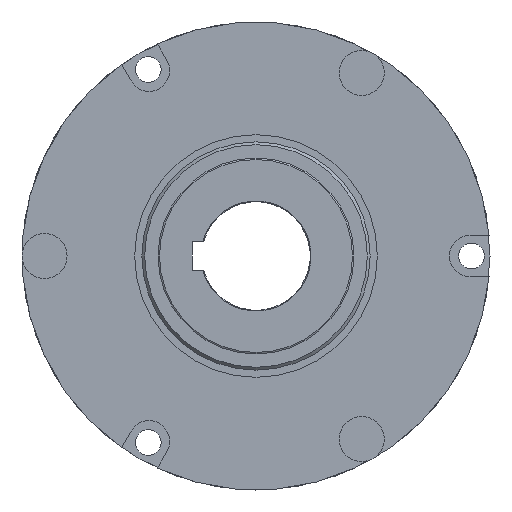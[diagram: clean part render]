
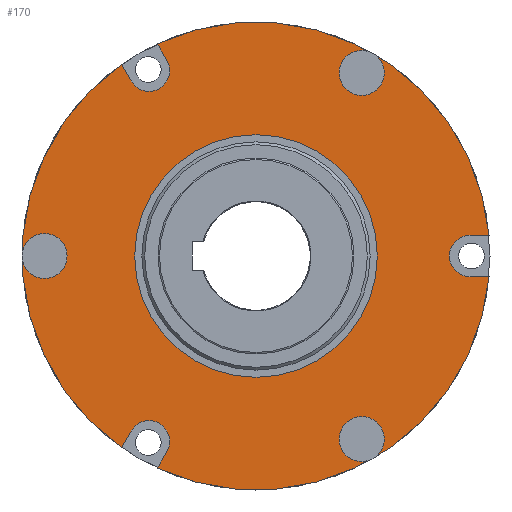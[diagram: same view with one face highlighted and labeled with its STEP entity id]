
A CAD part, left-side view. The second image highlights one B-rep face of the part: STEP entity #170.
In plain terms, the highlighted planar face has unit normal (-1, 0, 0).
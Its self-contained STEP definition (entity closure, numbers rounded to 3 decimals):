
#8 = LINE ( 'NONE', #66, #2369 ) ;
#16 = VERTEX_POINT ( 'NONE', #1102 ) ;
#24 = EDGE_CURVE ( 'NONE', #2466, #1108, #510, .T. ) ;
#66 = CARTESIAN_POINT ( 'NONE',  ( -25.25, 6.279, -3.625 ) ) ;
#132 = CARTESIAN_POINT ( 'NONE',  ( -25.25, 31.221, -68.577 ) ) ;
#138 = VERTEX_POINT ( 'NONE', #1124 ) ;
#151 = CARTESIAN_POINT ( 'NONE',  ( -25.25, 31.221, 68.577 ) ) ;
#170 = ADVANCED_FACE ( 'NONE', ( #2072, #1840, #2306, #1441, #274 ), #2261, .F. ) ;
#242 = ORIENTED_EDGE ( 'NONE', *, *, #24, .T. ) ;
#251 = VECTOR ( 'NONE', #920, 1000. ) ;
#265 = CARTESIAN_POINT ( 'NONE',  ( -25.25, -81.679, 7.25 ) ) ;
#274 = FACE_OUTER_BOUND ( 'NONE', #2241, .T. ) ;
#290 = CARTESIAN_POINT ( 'NONE',  ( -25.25, -81.679, -7.25 ) ) ;
#299 = CARTESIAN_POINT ( 'NONE',  ( -25.25, 34.561, 74.361 ) ) ;
#347 = DIRECTION ( 'NONE',  ( 0., -0.866, 0.5 ) ) ;
#383 = ORIENTED_EDGE ( 'NONE', *, *, #1798, .T. ) ;
#389 = CARTESIAN_POINT ( 'NONE',  ( -25.25, 47.118, 67.111 ) ) ;
#391 = CARTESIAN_POINT ( 'NONE',  ( -25.25, -37.05, 64.172 ) ) ;
#392 = AXIS2_PLACEMENT_3D ( 'NONE', #567, #2271, #758 ) ;
#396 = DIRECTION ( 'NONE',  ( 0., 0.866, 0.5 ) ) ;
#402 = ORIENTED_EDGE ( 'NONE', *, *, #995, .T. ) ;
#403 = VERTEX_POINT ( 'NONE', #1059 ) ;
#406 = ORIENTED_EDGE ( 'NONE', *, *, #1558, .T. ) ;
#409 = CIRCLE ( 'NONE', #1662, 82. ) ;
#417 = CARTESIAN_POINT ( 'NONE',  ( -25.25, 37.5, 64.952 ) ) ;
#431 = EDGE_CURVE ( 'NONE', #2637, #803, #485, .T. ) ;
#463 = LINE ( 'NONE', #2223, #534 ) ;
#485 = LINE ( 'NONE', #1548, #2505 ) ;
#510 = LINE ( 'NONE', #708, #578 ) ;
#534 = VECTOR ( 'NONE', #2227, 1000. ) ;
#538 = CARTESIAN_POINT ( 'NONE',  ( -25.25, -37.05, -64.172 ) ) ;
#558 = EDGE_CURVE ( 'NONE', #2637, #403, #2601, .T. ) ;
#567 = CARTESIAN_POINT ( 'NONE',  ( -25.25, 82., 0. ) ) ;
#571 = CIRCLE ( 'NONE', #1514, 7.25 ) ;
#576 = DIRECTION ( 'NONE',  ( 0., 0., 1. ) ) ;
#578 = VECTOR ( 'NONE', #2013, 1000. ) ;
#599 = LINE ( 'NONE', #2068, #2718 ) ;
#605 = ORIENTED_EDGE ( 'NONE', *, *, #1659, .T. ) ;
#613 = EDGE_CURVE ( 'NONE', #16, #1648, #1820, .T. ) ;
#616 = DIRECTION ( 'NONE',  ( 0., 0., 1. ) ) ;
#681 = DIRECTION ( 'NONE',  ( 1., 0., 0. ) ) ;
#708 = CARTESIAN_POINT ( 'NONE',  ( -25.25, 0., -7.25 ) ) ;
#718 = DIRECTION ( 'NONE',  ( -1., 0., 0. ) ) ;
#744 = EDGE_LOOP ( 'NONE', ( #1590 ) ) ;
#755 = DIRECTION ( 'NONE',  ( 0., 0., 1. ) ) ;
#758 = DIRECTION ( 'NONE',  ( 0., 0., -1. ) ) ;
#803 = VERTEX_POINT ( 'NONE', #1862 ) ;
#814 = ORIENTED_EDGE ( 'NONE', *, *, #1464, .F. ) ;
#830 = DIRECTION ( 'NONE',  ( 0., 0., 1. ) ) ;
#837 = CARTESIAN_POINT ( 'NONE',  ( -25.25, -75., -7.25 ) ) ;
#855 = DIRECTION ( 'NONE',  ( -1., 0., 0. ) ) ;
#920 = DIRECTION ( 'NONE',  ( 0., -1., 0. ) ) ;
#955 = AXIS2_PLACEMENT_3D ( 'NONE', #538, #1627, #347 ) ;
#991 = CARTESIAN_POINT ( 'NONE',  ( -25.25, 0., 0. ) ) ;
#995 = EDGE_CURVE ( 'NONE', #1121, #2703, #1927, .T. ) ;
#1000 = DIRECTION ( 'NONE',  ( -1., 0., 0. ) ) ;
#1022 = CARTESIAN_POINT ( 'NONE',  ( -25.25, -75., 0. ) ) ;
#1043 = ORIENTED_EDGE ( 'NONE', *, *, #2557, .T. ) ;
#1059 = CARTESIAN_POINT ( 'NONE',  ( -25.25, 43.779, -61.327 ) ) ;
#1093 = AXIS2_PLACEMENT_3D ( 'NONE', #2280, #1000, #755 ) ;
#1102 = CARTESIAN_POINT ( 'NONE',  ( -25.25, -75., 7.25 ) ) ;
#1108 = VERTEX_POINT ( 'NONE', #837 ) ;
#1121 = VERTEX_POINT ( 'NONE', #389 ) ;
#1124 = CARTESIAN_POINT ( 'NONE',  ( -25.25, 74.1, -7.4 ) ) ;
#1129 = EDGE_CURVE ( 'NONE', #2468, #2590, #599, .T. ) ;
#1142 = DIRECTION ( 'NONE',  ( -1., 0., 0. ) ) ;
#1148 = CIRCLE ( 'NONE', #2030, 7.25 ) ;
#1159 = EDGE_CURVE ( 'NONE', #16, #1108, #571, .T. ) ;
#1189 = DIRECTION ( 'NONE',  ( 0., 0., 1. ) ) ;
#1192 = ORIENTED_EDGE ( 'NONE', *, *, #1129, .T. ) ;
#1193 = AXIS2_PLACEMENT_3D ( 'NONE', #391, #2071, #396 ) ;
#1199 = AXIS2_PLACEMENT_3D ( 'NONE', #2638, #718, #2225 ) ;
#1215 = EDGE_LOOP ( 'NONE', ( #814 ) ) ;
#1218 = CIRCLE ( 'NONE', #1193, 7.4 ) ;
#1306 = ORIENTED_EDGE ( 'NONE', *, *, #1159, .F. ) ;
#1342 = DIRECTION ( 'NONE',  ( 0., 0., 1. ) ) ;
#1352 = ORIENTED_EDGE ( 'NONE', *, *, #431, .T. ) ;
#1357 = CARTESIAN_POINT ( 'NONE',  ( -25.25, 37.5, -64.952 ) ) ;
#1358 = AXIS2_PLACEMENT_3D ( 'NONE', #1357, #1142, #1342 ) ;
#1379 = AXIS2_PLACEMENT_3D ( 'NONE', #2562, #681, #1530 ) ;
#1441 = FACE_BOUND ( 'NONE', #1215, .T. ) ;
#1464 = EDGE_CURVE ( 'NONE', #2335, #2335, #2517, .T. ) ;
#1514 = AXIS2_PLACEMENT_3D ( 'NONE', #1022, #2088, #576 ) ;
#1527 = DIRECTION ( 'NONE',  ( 0., 0.5, 0.866 ) ) ;
#1530 = DIRECTION ( 'NONE',  ( 0., 0., -1. ) ) ;
#1542 = CIRCLE ( 'NONE', #1093, 82. ) ;
#1548 = CARTESIAN_POINT ( 'NONE',  ( -25.25, -6.279, -3.625 ) ) ;
#1558 = EDGE_CURVE ( 'NONE', #138, #138, #1635, .T. ) ;
#1590 = ORIENTED_EDGE ( 'NONE', *, *, #2001, .T. ) ;
#1627 = DIRECTION ( 'NONE',  ( 1., 0., 0. ) ) ;
#1635 = CIRCLE ( 'NONE', #1379, 7.4 ) ;
#1648 = VERTEX_POINT ( 'NONE', #265 ) ;
#1659 = EDGE_CURVE ( 'NONE', #2703, #403, #463, .T. ) ;
#1662 = AXIS2_PLACEMENT_3D ( 'NONE', #991, #2447, #1189 ) ;
#1672 = CIRCLE ( 'NONE', #955, 7.4 ) ;
#1721 = CARTESIAN_POINT ( 'NONE',  ( -25.25, 47.118, -67.111 ) ) ;
#1798 = EDGE_CURVE ( 'NONE', #1648, #2468, #409, .T. ) ;
#1820 = LINE ( 'NONE', #1976, #251 ) ;
#1836 = VERTEX_POINT ( 'NONE', #2158 ) ;
#1840 = FACE_BOUND ( 'NONE', #2472, .T. ) ;
#1852 = EDGE_CURVE ( 'NONE', #803, #2466, #1542, .T. ) ;
#1862 = CARTESIAN_POINT ( 'NONE',  ( -25.25, 34.561, -74.361 ) ) ;
#1901 = CARTESIAN_POINT ( 'NONE',  ( -25.25, 43.779, 61.327 ) ) ;
#1902 = ORIENTED_EDGE ( 'NONE', *, *, #2022, .F. ) ;
#1906 = ORIENTED_EDGE ( 'NONE', *, *, #558, .F. ) ;
#1917 = CARTESIAN_POINT ( 'NONE',  ( -25.25, 0., 0. ) ) ;
#1927 = CIRCLE ( 'NONE', #1199, 82. ) ;
#1976 = CARTESIAN_POINT ( 'NONE',  ( -25.25, 0., 7.25 ) ) ;
#2001 = EDGE_CURVE ( 'NONE', #1836, #1836, #1218, .T. ) ;
#2013 = DIRECTION ( 'NONE',  ( 0., 1., 0. ) ) ;
#2022 = EDGE_CURVE ( 'NONE', #2666, #2590, #1148, .T. ) ;
#2030 = AXIS2_PLACEMENT_3D ( 'NONE', #417, #855, #830 ) ;
#2068 = CARTESIAN_POINT ( 'NONE',  ( -25.25, -6.279, 3.625 ) ) ;
#2071 = DIRECTION ( 'NONE',  ( 1., 0., 0. ) ) ;
#2072 = FACE_BOUND ( 'NONE', #744, .T. ) ;
#2088 = DIRECTION ( 'NONE',  ( -1., 0., 0. ) ) ;
#2158 = CARTESIAN_POINT ( 'NONE',  ( -25.25, -30.641, 67.872 ) ) ;
#2206 = EDGE_LOOP ( 'NONE', ( #406 ) ) ;
#2223 = CARTESIAN_POINT ( 'NONE',  ( -25.25, 6.279, 3.625 ) ) ;
#2225 = DIRECTION ( 'NONE',  ( 0., 0., 1. ) ) ;
#2227 = DIRECTION ( 'NONE',  ( 0., -0.5, 0.866 ) ) ;
#2241 = EDGE_LOOP ( 'NONE', ( #2532, #383, #1192, #1902, #2412, #402, #605, #1906, #1352, #2270, #242, #1306 ) ) ;
#2256 = EDGE_CURVE ( 'NONE', #2666, #1121, #8, .T. ) ;
#2261 = PLANE ( 'NONE',  #392 ) ;
#2267 = AXIS2_PLACEMENT_3D ( 'NONE', #1917, #2528, #616 ) ;
#2270 = ORIENTED_EDGE ( 'NONE', *, *, #1852, .T. ) ;
#2271 = DIRECTION ( 'NONE',  ( 1., 0., 0. ) ) ;
#2280 = CARTESIAN_POINT ( 'NONE',  ( -25.25, 0., 0. ) ) ;
#2292 = DIRECTION ( 'NONE',  ( 0., -0.5, -0.866 ) ) ;
#2306 = FACE_BOUND ( 'NONE', #2206, .T. ) ;
#2335 = VERTEX_POINT ( 'NONE', #2388 ) ;
#2359 = DIRECTION ( 'NONE',  ( 0., 0.5, -0.866 ) ) ;
#2369 = VECTOR ( 'NONE', #1527, 1000. ) ;
#2388 = CARTESIAN_POINT ( 'NONE',  ( -25.25, 0., 42.5 ) ) ;
#2412 = ORIENTED_EDGE ( 'NONE', *, *, #2256, .T. ) ;
#2447 = DIRECTION ( 'NONE',  ( -1., 0., 0. ) ) ;
#2466 = VERTEX_POINT ( 'NONE', #290 ) ;
#2468 = VERTEX_POINT ( 'NONE', #299 ) ;
#2472 = EDGE_LOOP ( 'NONE', ( #1043 ) ) ;
#2486 = VERTEX_POINT ( 'NONE', #2582 ) ;
#2505 = VECTOR ( 'NONE', #2359, 1000. ) ;
#2517 = CIRCLE ( 'NONE', #2267, 42.5 ) ;
#2528 = DIRECTION ( 'NONE',  ( -1., 0., 0. ) ) ;
#2532 = ORIENTED_EDGE ( 'NONE', *, *, #613, .T. ) ;
#2557 = EDGE_CURVE ( 'NONE', #2486, #2486, #1672, .T. ) ;
#2562 = CARTESIAN_POINT ( 'NONE',  ( -25.25, 74.1, 0. ) ) ;
#2582 = CARTESIAN_POINT ( 'NONE',  ( -25.25, -43.459, -60.472 ) ) ;
#2590 = VERTEX_POINT ( 'NONE', #151 ) ;
#2601 = CIRCLE ( 'NONE', #1358, 7.25 ) ;
#2637 = VERTEX_POINT ( 'NONE', #132 ) ;
#2638 = CARTESIAN_POINT ( 'NONE',  ( -25.25, 0., 0. ) ) ;
#2666 = VERTEX_POINT ( 'NONE', #1901 ) ;
#2703 = VERTEX_POINT ( 'NONE', #1721 ) ;
#2718 = VECTOR ( 'NONE', #2292, 1000. ) ;
